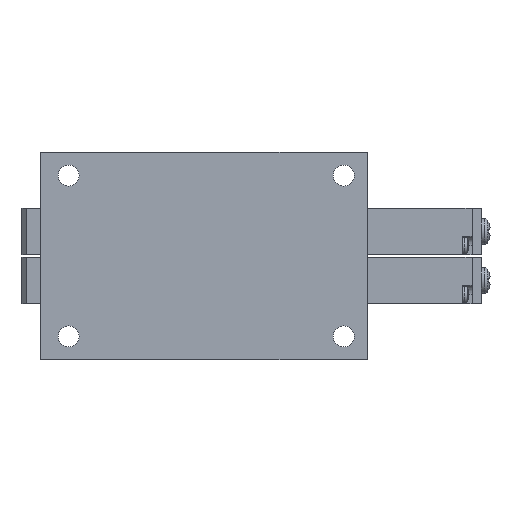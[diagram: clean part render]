
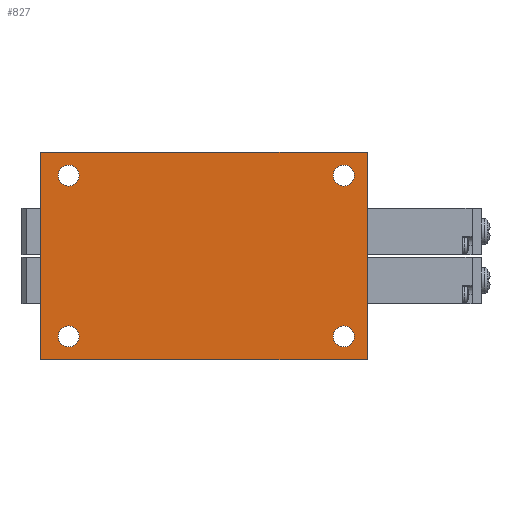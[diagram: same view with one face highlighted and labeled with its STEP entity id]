
A CAD part, front view. The second image highlights one B-rep face of the part: STEP entity #827.
In plain terms, the highlighted planar face has unit normal (0, -1, 0).
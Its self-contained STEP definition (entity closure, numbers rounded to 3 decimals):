
#827=ADVANCED_FACE('',(#1718,#1719,#1720,#1721,#1722),#1723,.F.);
#1718=FACE_OUTER_BOUND('',#2632,.T.);
#1719=FACE_BOUND('',#2633,.T.);
#1720=FACE_BOUND('',#2634,.T.);
#1721=FACE_BOUND('',#2635,.T.);
#1722=FACE_BOUND('',#2636,.T.);
#1723=PLANE('',#2637);
#2632=EDGE_LOOP('',(#5830,#5831,#5832,#5833));
#2633=EDGE_LOOP('',(#5834));
#2634=EDGE_LOOP('',(#5835));
#2635=EDGE_LOOP('',(#5836));
#2636=EDGE_LOOP('',(#5837));
#2637=AXIS2_PLACEMENT_3D('',#5838,#5839,#5840);
#5830=ORIENTED_EDGE('',*,*,#6891,.T.);
#5831=ORIENTED_EDGE('',*,*,#6875,.F.);
#5832=ORIENTED_EDGE('',*,*,#6866,.F.);
#5833=ORIENTED_EDGE('',*,*,#6877,.T.);
#5834=ORIENTED_EDGE('',*,*,#6892,.F.);
#5835=ORIENTED_EDGE('',*,*,#6884,.F.);
#5836=ORIENTED_EDGE('',*,*,#6889,.F.);
#5837=ORIENTED_EDGE('',*,*,#6881,.F.);
#5838=CARTESIAN_POINT('',(0.0,0.0,22.25));
#5839=DIRECTION('',(-0.0,1.0,0.0));
#5840=DIRECTION('',(1.0,0.0,0.0));
#6866=EDGE_CURVE('',#8543,#8545,#8546,.T.);
#6875=EDGE_CURVE('',#8545,#8558,#8562,.T.);
#6877=EDGE_CURVE('',#8543,#8564,#8566,.T.);
#6881=EDGE_CURVE('',#8572,#8572,#8573,.T.);
#6884=EDGE_CURVE('',#8578,#8578,#8579,.T.);
#6889=EDGE_CURVE('',#8588,#8588,#8589,.T.);
#6891=EDGE_CURVE('',#8564,#8558,#8592,.T.);
#6892=EDGE_CURVE('',#8593,#8593,#8594,.T.);
#8543=VERTEX_POINT('',#11320);
#8545=VERTEX_POINT('',#11323);
#8546=LINE('',#11324,#11325);
#8558=VERTEX_POINT('',#11338);
#8562=LINE('',#11344,#11345);
#8564=VERTEX_POINT('',#11347);
#8566=LINE('',#11350,#11351);
#8572=VERTEX_POINT('',#11358);
#8573=CIRCLE('',#11359,2.25);
#8578=VERTEX_POINT('',#11364);
#8579=CIRCLE('',#11365,2.25);
#8588=VERTEX_POINT('',#11374);
#8589=CIRCLE('',#11375,2.25);
#8592=LINE('',#11378,#11379);
#8593=VERTEX_POINT('',#11380);
#8594=CIRCLE('',#11381,2.25);
#11320=CARTESIAN_POINT('',(0.0,0.0,22.25));
#11323=CARTESIAN_POINT('',(70.0,0.0,22.25));
#11324=CARTESIAN_POINT('',(0.0,0.0,22.25));
#11325=VECTOR('',#12700,1.0);
#11338=CARTESIAN_POINT('',(70.0,0.0,-22.25));
#11344=CARTESIAN_POINT('',(70.0,0.0,22.25));
#11345=VECTOR('',#12719,1.0);
#11347=CARTESIAN_POINT('',(0.0,0.0,-22.25));
#11350=CARTESIAN_POINT('',(0.0,0.0,22.25));
#11351=VECTOR('',#12721,1.0);
#11358=CARTESIAN_POINT('',(65.0,0.0,19.5));
#11359=AXIS2_PLACEMENT_3D('',#12729,#12730,#12731);
#11364=CARTESIAN_POINT('',(65.0,0.0,-15.0));
#11365=AXIS2_PLACEMENT_3D('',#12738,#12739,#12740);
#11374=CARTESIAN_POINT('',(6.0,0.0,-15.0));
#11375=AXIS2_PLACEMENT_3D('',#12753,#12754,#12755);
#11378=CARTESIAN_POINT('',(0.0,0.0,-22.25));
#11379=VECTOR('',#12759,1.0);
#11380=CARTESIAN_POINT('',(6.0,0.0,19.5));
#11381=AXIS2_PLACEMENT_3D('',#12760,#12761,#12762);
#12700=DIRECTION('',(1.0,0.0,0.0));
#12719=DIRECTION('',(0.0,0.0,-1.0));
#12721=DIRECTION('',(0.0,0.0,-1.0));
#12729=CARTESIAN_POINT('',(65.0,0.0,17.25));
#12730=DIRECTION('',(0.0,-1.0,0.0));
#12731=DIRECTION('',(0.0,0.0,1.0));
#12738=CARTESIAN_POINT('',(65.0,0.0,-17.25));
#12739=DIRECTION('',(0.0,-1.0,0.0));
#12740=DIRECTION('',(0.0,0.0,1.0));
#12753=CARTESIAN_POINT('',(6.0,0.0,-17.25));
#12754=DIRECTION('',(0.0,-1.0,0.0));
#12755=DIRECTION('',(0.0,0.0,1.0));
#12759=DIRECTION('',(1.0,0.0,0.0));
#12760=CARTESIAN_POINT('',(6.0,0.0,17.25));
#12761=DIRECTION('',(0.0,-1.0,0.0));
#12762=DIRECTION('',(0.0,0.0,1.0));
